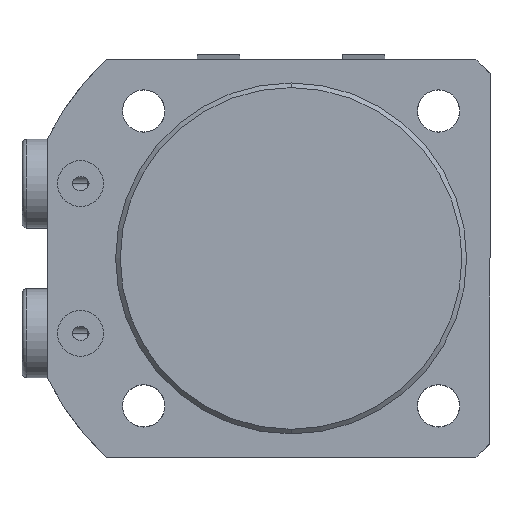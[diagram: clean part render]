
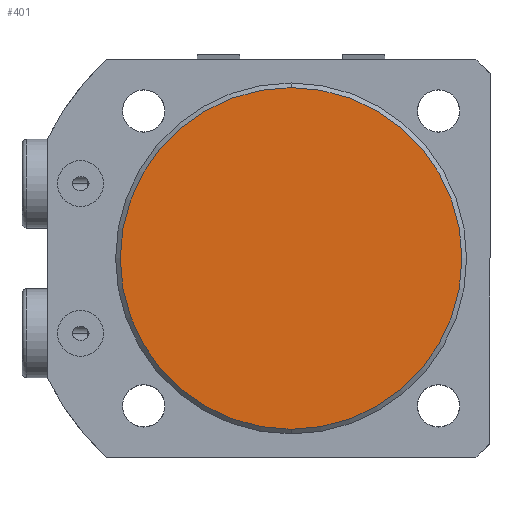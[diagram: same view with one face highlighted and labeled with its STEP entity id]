
A CAD part, front view. The second image highlights one B-rep face of the part: STEP entity #401.
In plain terms, the highlighted planar face has unit normal (0, -1, 0).
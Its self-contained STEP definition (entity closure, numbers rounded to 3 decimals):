
#288 = FACE_OUTER_BOUND ( 'NONE', #4252, .T. ) ;
#345 = ORIENTED_EDGE ( 'NONE', *, *, #612, .T. ) ;
#401 = ADVANCED_FACE ( 'NONE', ( #288 ), #6655, .F. ) ;
#612 = EDGE_CURVE ( 'NONE', #3891, #2619, #5309, .T. ) ;
#1558 = DIRECTION ( 'NONE',  ( 0., 0., 1. ) ) ;
#1597 = CARTESIAN_POINT ( 'NONE',  ( 0., 0., 0. ) ) ;
#1676 = DIRECTION ( 'NONE',  ( 0., -1., 0. ) ) ;
#1838 = CARTESIAN_POINT ( 'NONE',  ( 0., 0., -36.5 ) ) ;
#1857 = CIRCLE ( 'NONE', #2443, 36.5 ) ;
#2016 = AXIS2_PLACEMENT_3D ( 'NONE', #1597, #1676, #1558 ) ;
#2087 = DIRECTION ( 'NONE',  ( 0., -1., 0. ) ) ;
#2443 = AXIS2_PLACEMENT_3D ( 'NONE', #5654, #2087, #6239 ) ;
#2467 = AXIS2_PLACEMENT_3D ( 'NONE', #6964, #6647, #6123 ) ;
#2619 = VERTEX_POINT ( 'NONE', #1838 ) ;
#3891 = VERTEX_POINT ( 'NONE', #4639 ) ;
#4069 = ORIENTED_EDGE ( 'NONE', *, *, #4949, .T. ) ;
#4252 = EDGE_LOOP ( 'NONE', ( #345, #4069 ) ) ;
#4639 = CARTESIAN_POINT ( 'NONE',  ( 0., 0., 36.5 ) ) ;
#4949 = EDGE_CURVE ( 'NONE', #2619, #3891, #1857, .T. ) ;
#5309 = CIRCLE ( 'NONE', #2016, 36.5 ) ;
#5654 = CARTESIAN_POINT ( 'NONE',  ( 0., 0., 0. ) ) ;
#6123 = DIRECTION ( 'NONE',  ( 0., 0., 1. ) ) ;
#6239 = DIRECTION ( 'NONE',  ( 0., 0., 1. ) ) ;
#6647 = DIRECTION ( 'NONE',  ( 0., 1., 0. ) ) ;
#6655 = PLANE ( 'NONE',  #2467 ) ;
#6964 = CARTESIAN_POINT ( 'NONE',  ( 0., 0., 0. ) ) ;
